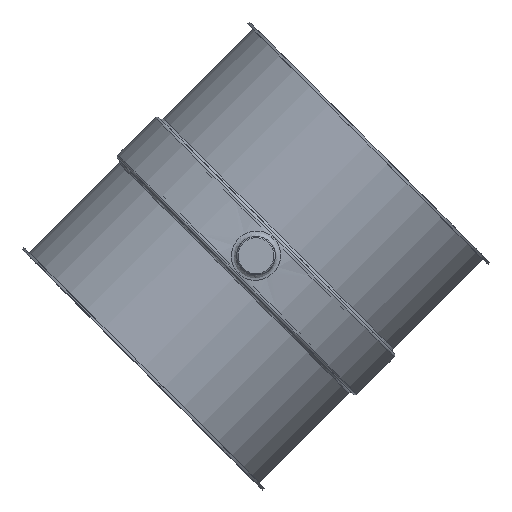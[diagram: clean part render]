
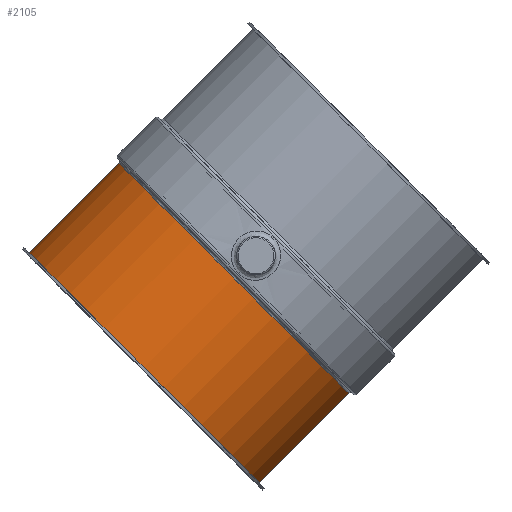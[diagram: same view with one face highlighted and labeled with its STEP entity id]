
A CAD part, top view. The second image highlights one B-rep face of the part: STEP entity #2105.
In plain terms, the highlighted cylindrical face has radius 126.5 mm (diameter 253 mm), a full revolution.
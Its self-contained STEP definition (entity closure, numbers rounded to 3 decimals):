
#1818=CARTESIAN_POINT('',(0.,2.041,0.));
#1819=VERTEX_POINT('',#1818);
#1820=CARTESIAN_POINT('',(-126.5,2.041,0.0));
#1821=DIRECTION('',(0.0,1.0,0.0));
#1822=DIRECTION('',(1.0,0.0,0.0));
#1823=AXIS2_PLACEMENT_3D('',#1820,#1821,#1822);
#1824=CIRCLE('',#1823,126.5);
#1825=EDGE_CURVE('',#1819,#1819,#1824,.T.);
#2079=CARTESIAN_POINT('',(0.,100.541,0.0));
#2080=VERTEX_POINT('',#2079);
#2081=CARTESIAN_POINT('',(-126.5,100.541,0.0));
#2082=DIRECTION('',(0.0,-1.0,0.0));
#2083=DIRECTION('',(1.0,0.0,0.0));
#2084=AXIS2_PLACEMENT_3D('',#2081,#2082,#2083);
#2085=CIRCLE('',#2084,126.5);
#2086=EDGE_CURVE('',#2080,#2080,#2085,.T.);
#2094=CARTESIAN_POINT('',(-126.5,50.291,0.0));
#2095=DIRECTION('',(0.0,-1.0,0.0));
#2096=DIRECTION('',(1.0,0.0,0.0));
#2097=AXIS2_PLACEMENT_3D('',#2094,#2095,#2096);
#2098=CYLINDRICAL_SURFACE('',#2097,126.5);
#2099=ORIENTED_EDGE('',*,*,#1825,.T.);
#2100=EDGE_LOOP('',(#2099));
#2101=FACE_OUTER_BOUND('',#2100,.T.);
#2102=ORIENTED_EDGE('',*,*,#2086,.T.);
#2103=EDGE_LOOP('',(#2102));
#2104=FACE_BOUND('',#2103,.T.);
#2105=ADVANCED_FACE('',(#2101,#2104),#2098,.T.);
